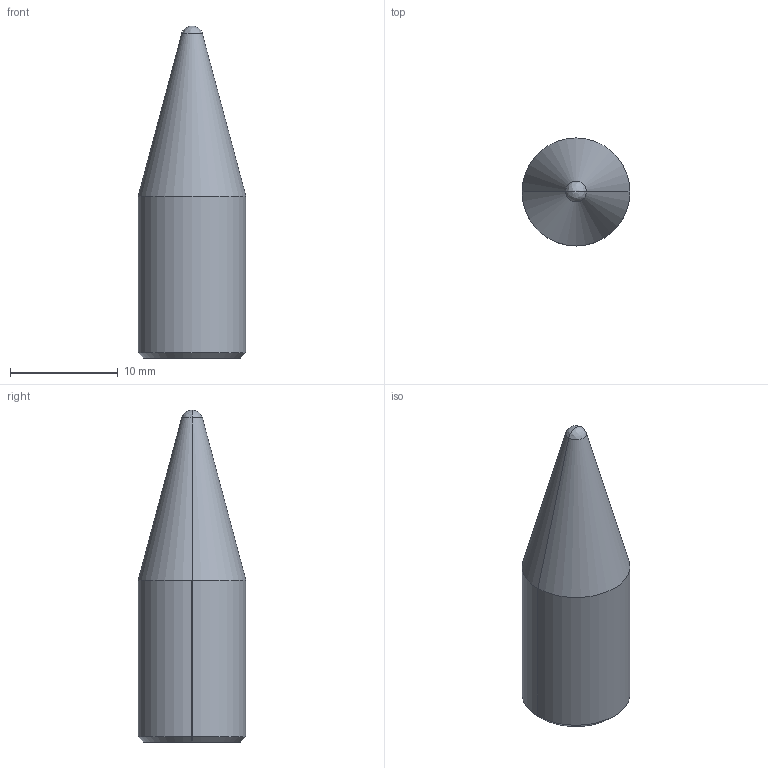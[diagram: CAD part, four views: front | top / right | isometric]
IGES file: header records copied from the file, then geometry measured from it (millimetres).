
Global section: file name: E:\UnigraphicsGraphicData\MISUMI_PRESS-PARTS\IGES\3d_snst10-b15_03105_r00.igs; native system: NX V5.0; preprocessor: UGS NX IGES V5.0; author: MISUMI; date: 20110105.162851; units: millimetre
Bounding box: 10 x 10 x 30.8 mm (x, y, z)
Surface area: 994.3 mm2 (no closed solid volume)
Topology: 0 solids, 0 shells, 12 faces, 64 edges, 62 vertices
Faces by surface type: bspline 12
